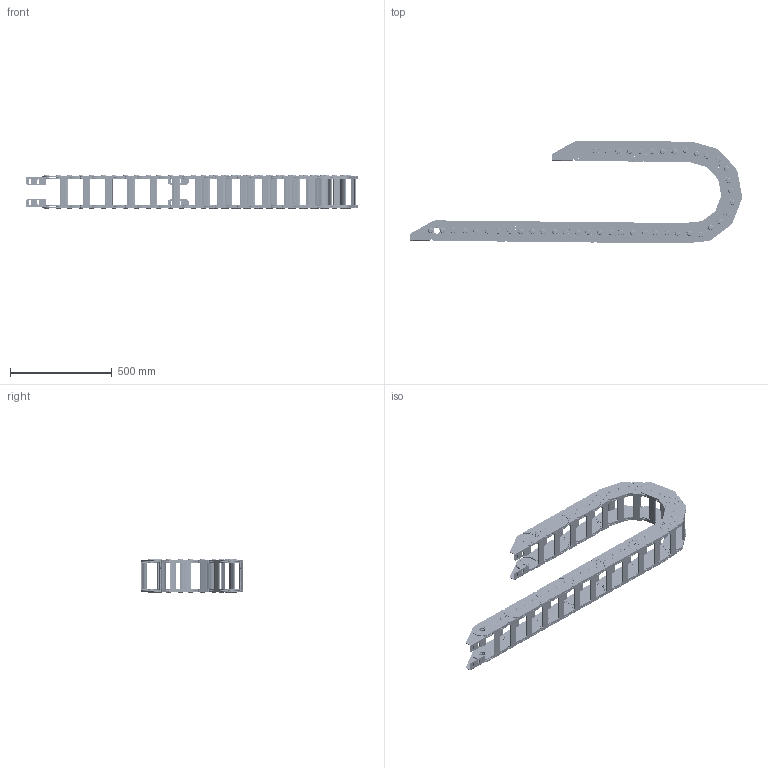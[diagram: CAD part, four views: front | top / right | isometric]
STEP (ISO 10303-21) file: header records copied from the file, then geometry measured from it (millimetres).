
FILE_DESCRIPTION((''),'2;1');
FILE_NAME('80GD-75-R200_ASM','2022-07-31T16:05:38',('admin'),(''),'CREO PARAMETRIC BY PTC INC, 2021164','CREO PARAMETRIC BY PTC INC, 2021164','');
FILE_SCHEMA(('CONFIG_CONTROL_DESIGN','GEOMETRIC_VALIDATION_PROPERTIES_MIM'));
Length unit declared in the file: millimetre
Products named in the file (5): 80-A; 80-B; 80-LTT; 80-LTT-2; 80GD-75-R200_ASM
Assembly tree (24 placements, depth 2):
  80GD-75-R200_ASM
    80-A  x11
    80-B  x11
    80-LTT
    80-LTT-2
Bounding box: 1627.46 x 504.42 x 165.4 mm (x, y, z)
Volume: 10657457.5 mm3; surface area: 3341840.8 mm2
Topology: 92 solids, 92 shells, 3900 faces, 10566 edges, 7162 vertices
Faces by surface type: cylinder 1728, plane 1556, torus 440, cone 176
Entity records: 21405 total; most frequent: DIRECTION 3086, CARTESIAN_POINT 2850, ORIENTED_EDGE 2732, EDGE_CURVE 1366, AXIS2_PLACEMENT_3D 1191, PRESENTATION_STYLE_ASSIGNMENT 1114, STYLED_ITEM 1114, VERTEX_POINT 922
